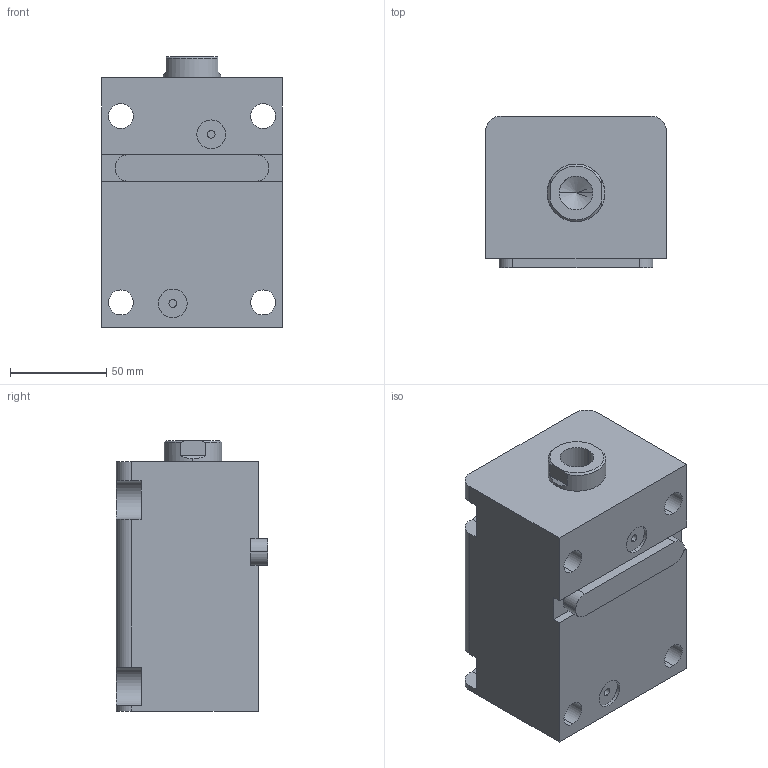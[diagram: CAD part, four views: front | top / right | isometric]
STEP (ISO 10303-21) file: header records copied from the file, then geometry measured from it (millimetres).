
FILE_DESCRIPTION (( 'STEP AP203' ), '1' );
FILE_NAME ('HTB-LAM50-70N.STEP', '2023-03-20T01:08:33', ( '微软用户' ), ( '微软中国' ), 'SwSTEP 2.0', 'SolidWorks 2012', '' );
FILE_SCHEMA (( 'CONFIG_CONTROL_DESIGN' ));
Length unit declared in the file: millimetre
Products named in the file (4): HTB-LAM50-70N; HTB-LWM50-瑩; HTB-LAM50-70N活塞杆; HTB-LAM50-70掛极
Assembly tree (3 placements, depth 2):
  HTB-LAM50-70N
    HTB-LAM50-70掛极
    HTB-LAM50-70N活塞杆
    HTB-LWM50-瑩
Bounding box: 94 x 79 x 141 mm (x, y, z)
Volume: 767314.2 mm3; surface area: 110463.8 mm2
Topology: 3 solids, 3 shells, 86 faces, 213 edges, 139 vertices
Faces by surface type: cylinder 39, plane 39, torus 4, cone 4
Entity records: 3001 total; most frequent: DIRECTION 475, CARTESIAN_POINT 470, ORIENTED_EDGE 422, EDGE_CURVE 211, AXIS2_PLACEMENT_3D 180, VERTEX_POINT 139, VECTOR 115, LINE 115
